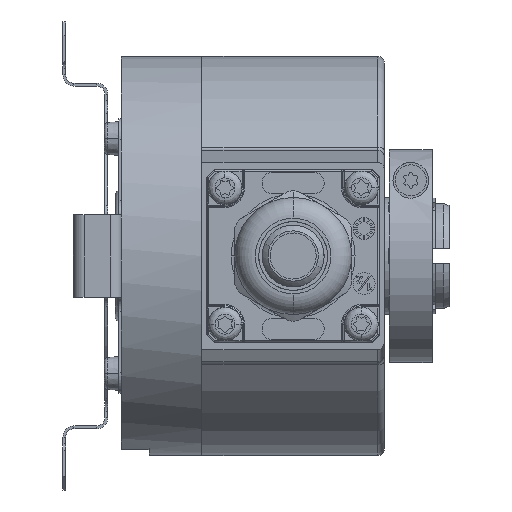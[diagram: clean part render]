
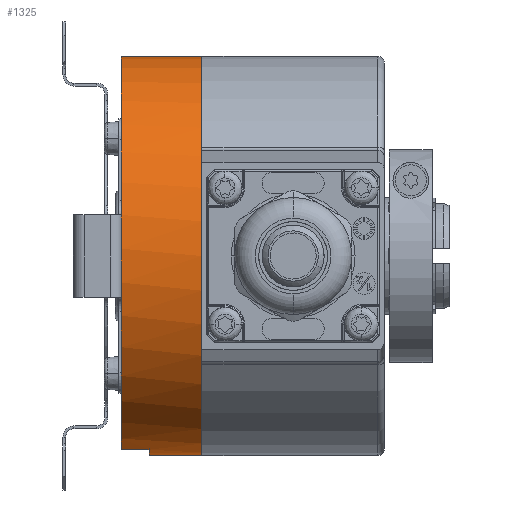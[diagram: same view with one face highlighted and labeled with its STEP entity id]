
A CAD part, front view. The second image highlights one B-rep face of the part: STEP entity #1325.
In plain terms, the highlighted cylindrical face has radius 29 mm (diameter 58 mm), a partial arc.
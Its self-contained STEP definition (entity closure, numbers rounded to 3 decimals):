
#26 = VERTEX_POINT ( 'NONE', #19450 ) ;
#656 = DIRECTION ( 'NONE',  ( 0., 0., -1. ) ) ;
#838 = VECTOR ( 'NONE', #22423, 1000. ) ;
#1325 = ADVANCED_FACE ( 'NONE', ( #19290 ), #21714, .T. ) ;
#1562 = LINE ( 'NONE', #22474, #17825 ) ;
#1565 = VECTOR ( 'NONE', #23152, 1000. ) ;
#1896 = ORIENTED_EDGE ( 'NONE', *, *, #16620, .F. ) ;
#2453 = CARTESIAN_POINT ( 'NONE',  ( -3.622, 25.423, 29. ) ) ;
#2567 = AXIS2_PLACEMENT_3D ( 'NONE', #8909, #18129, #7980 ) ;
#3504 = VERTEX_POINT ( 'NONE', #8103 ) ;
#3641 = CIRCLE ( 'NONE', #26881, 29. ) ;
#3818 = DIRECTION ( 'NONE',  ( 1., 0., 0. ) ) ;
#4028 = EDGE_LOOP ( 'NONE', ( #1896, #10836, #21317, #7800, #12667, #19328 ) ) ;
#6678 = CARTESIAN_POINT ( 'NONE',  ( 8.068, 18.423, -28.142 ) ) ;
#6931 = CARTESIAN_POINT ( 'NONE',  ( 0.378, 25.423, -29. ) ) ;
#7645 = DIRECTION ( 'NONE',  ( 1., 0., 0. ) ) ;
#7800 = ORIENTED_EDGE ( 'NONE', *, *, #14422, .T. ) ;
#7980 = DIRECTION ( 'NONE',  ( 0., 0., -1. ) ) ;
#8103 = CARTESIAN_POINT ( 'NONE',  ( -3.622, 18.423, -28.142 ) ) ;
#8345 = CARTESIAN_POINT ( 'NONE',  ( 8.068, 25.423, -29. ) ) ;
#8411 = CIRCLE ( 'NONE', #2567, 29. ) ;
#8909 = CARTESIAN_POINT ( 'NONE',  ( 8.068, 25.423, 0. ) ) ;
#10836 = ORIENTED_EDGE ( 'NONE', *, *, #26567, .T. ) ;
#10843 = VERTEX_POINT ( 'NONE', #26135 ) ;
#12667 = ORIENTED_EDGE ( 'NONE', *, *, #15372, .T. ) ;
#14422 = EDGE_CURVE ( 'NONE', #10843, #15990, #20132, .T. ) ;
#14898 = EDGE_CURVE ( 'NONE', #20935, #26, #8411, .T. ) ;
#15372 = EDGE_CURVE ( 'NONE', #15990, #26, #24835, .T. ) ;
#15990 = VERTEX_POINT ( 'NONE', #6931 ) ;
#16300 = CARTESIAN_POINT ( 'NONE',  ( -3.622, 25.423, 0. ) ) ;
#16620 = EDGE_CURVE ( 'NONE', #20075, #20935, #1562, .T. ) ;
#17450 = CARTESIAN_POINT ( 'NONE',  ( 8.068, 25.423, 0. ) ) ;
#17825 = VECTOR ( 'NONE', #24581, 1000. ) ;
#18129 = DIRECTION ( 'NONE',  ( 1., 0., 0. ) ) ;
#19137 = AXIS2_PLACEMENT_3D ( 'NONE', #27456, #3818, #29586 ) ;
#19290 = FACE_OUTER_BOUND ( 'NONE', #4028, .T. ) ;
#19328 = ORIENTED_EDGE ( 'NONE', *, *, #14898, .F. ) ;
#19450 = CARTESIAN_POINT ( 'NONE',  ( 8.068, 25.423, -29. ) ) ;
#20075 = VERTEX_POINT ( 'NONE', #2453 ) ;
#20132 = CIRCLE ( 'NONE', #19137, 29. ) ;
#20935 = VERTEX_POINT ( 'NONE', #27815 ) ;
#20954 = AXIS2_PLACEMENT_3D ( 'NONE', #17450, #7645, #656 ) ;
#21317 = ORIENTED_EDGE ( 'NONE', *, *, #24629, .F. ) ;
#21714 = CYLINDRICAL_SURFACE ( 'NONE', #20954, 29. ) ;
#22423 = DIRECTION ( 'NONE',  ( 1., 0., 0. ) ) ;
#22474 = CARTESIAN_POINT ( 'NONE',  ( 8.068, 25.423, 29. ) ) ;
#23152 = DIRECTION ( 'NONE',  ( -1., 0., 0. ) ) ;
#24581 = DIRECTION ( 'NONE',  ( 1., 0., 0. ) ) ;
#24629 = EDGE_CURVE ( 'NONE', #10843, #3504, #27565, .T. ) ;
#24835 = LINE ( 'NONE', #8345, #838 ) ;
#26135 = CARTESIAN_POINT ( 'NONE',  ( 0.378, 18.423, -28.142 ) ) ;
#26567 = EDGE_CURVE ( 'NONE', #20075, #3504, #3641, .T. ) ;
#26881 = AXIS2_PLACEMENT_3D ( 'NONE', #16300, #27968, #28427 ) ;
#27456 = CARTESIAN_POINT ( 'NONE',  ( 0.378, 25.423, 0. ) ) ;
#27565 = LINE ( 'NONE', #6678, #1565 ) ;
#27815 = CARTESIAN_POINT ( 'NONE',  ( 8.068, 25.423, 29. ) ) ;
#27968 = DIRECTION ( 'NONE',  ( 1., 0., 0. ) ) ;
#28427 = DIRECTION ( 'NONE',  ( 0., 0., -1. ) ) ;
#29586 = DIRECTION ( 'NONE',  ( 0., 0., 1. ) ) ;
